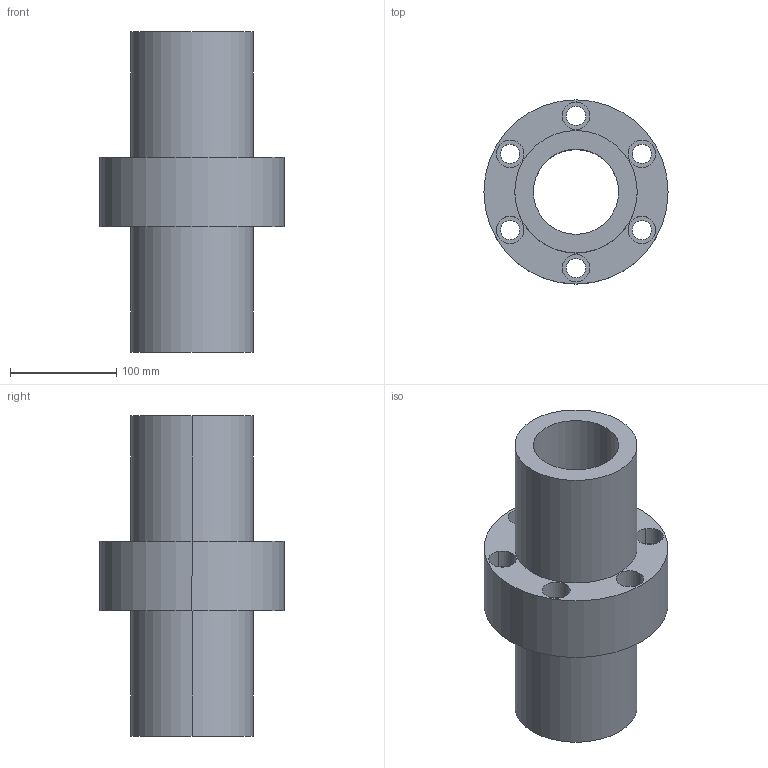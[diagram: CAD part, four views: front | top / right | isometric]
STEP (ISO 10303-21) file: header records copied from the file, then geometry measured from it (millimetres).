
FILE_DESCRIPTION((''),'2;1');
FILE_NAME('80-20T3','2008-04-07T',('yanyu'),(''),'PRO/ENGINEER BY PARAMETRIC TECHNOLOGY CORPORATION, 2005070','PRO/ENGINEER BY PARAMETRIC TECHNOLOGY CORPORATION, 2005070','');
FILE_SCHEMA(('CONFIG_CONTROL_DESIGN'));
Length unit declared in the file: millimetre
Products named in the file (1): 80-20T3
Bounding box: 173 x 173 x 301 mm (x, y, z)
Volume: 2337945.8 mm3; surface area: 254838.1 mm2
Topology: 1 solids, 1 shells, 42 faces, 100 edges, 68 vertices
Faces by surface type: cylinder 32, plane 10
Entity records: 1330 total; most frequent: DIRECTION 252, CARTESIAN_POINT 210, ORIENTED_EDGE 200, AXIS2_PLACEMENT_3D 110, EDGE_CURVE 100, VERTEX_POINT 68, CIRCLE 68, EDGE_LOOP 64
